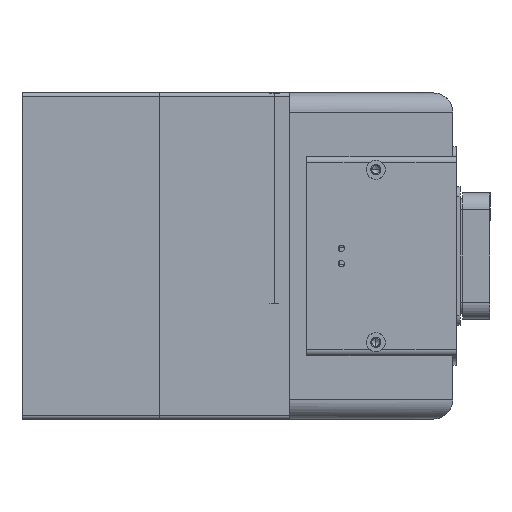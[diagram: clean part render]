
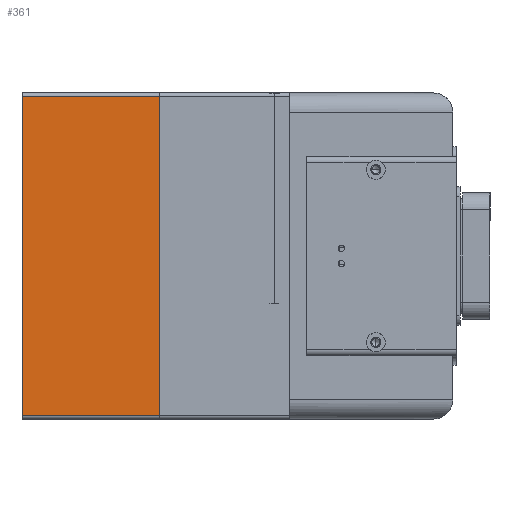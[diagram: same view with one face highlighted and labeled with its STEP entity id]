
A CAD part, left-side view. The second image highlights one B-rep face of the part: STEP entity #361.
In plain terms, the highlighted planar face has unit normal (-1, 0, 0).
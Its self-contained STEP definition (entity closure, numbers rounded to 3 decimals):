
#361 = ADVANCED_FACE ( 'NONE', ( #6363 ), #16065, .F. ) ;
#584 = CARTESIAN_POINT ( 'NONE',  ( -142.5, 71.5, -85. ) ) ;
#1531 = ORIENTED_EDGE ( 'NONE', *, *, #12725, .F. ) ;
#1661 = VECTOR ( 'NONE', #2316, 1000. ) ;
#1820 = CARTESIAN_POINT ( 'NONE',  ( -142.5, 0., -83. ) ) ;
#2316 = DIRECTION ( 'NONE',  ( 0., 0., 1. ) ) ;
#2889 = VERTEX_POINT ( 'NONE', #1820 ) ;
#3223 = VECTOR ( 'NONE', #11706, 1000. ) ;
#3345 = LINE ( 'NONE', #584, #19243 ) ;
#4045 = CARTESIAN_POINT ( 'NONE',  ( -142.5, 71.5, -83. ) ) ;
#4510 = LINE ( 'NONE', #13869, #5949 ) ;
#4699 = VERTEX_POINT ( 'NONE', #8981 ) ;
#5045 = EDGE_CURVE ( 'NONE', #2889, #4699, #12984, .T. ) ;
#5487 = ORIENTED_EDGE ( 'NONE', *, *, #5627, .F. ) ;
#5627 = EDGE_CURVE ( 'NONE', #16250, #15562, #3345, .T. ) ;
#5949 = VECTOR ( 'NONE', #15280, 1000. ) ;
#6363 = FACE_OUTER_BOUND ( 'NONE', #11652, .T. ) ;
#6444 = EDGE_CURVE ( 'NONE', #2889, #16250, #4510, .T. ) ;
#7107 = LINE ( 'NONE', #8670, #3223 ) ;
#8670 = CARTESIAN_POINT ( 'NONE',  ( -142.5, 85., 83. ) ) ;
#8981 = CARTESIAN_POINT ( 'NONE',  ( -142.5, 0., 83. ) ) ;
#9915 = CARTESIAN_POINT ( 'NONE',  ( -142.5, 0., 0. ) ) ;
#11652 = EDGE_LOOP ( 'NONE', ( #17959, #15092, #1531, #5487 ) ) ;
#11706 = DIRECTION ( 'NONE',  ( 0., -1., 0. ) ) ;
#11971 = DIRECTION ( 'NONE',  ( 0., 0., -1. ) ) ;
#12725 = EDGE_CURVE ( 'NONE', #15562, #4699, #7107, .T. ) ;
#12913 = DIRECTION ( 'NONE',  ( 0., 0., 1. ) ) ;
#12984 = LINE ( 'NONE', #9915, #1661 ) ;
#13375 = DIRECTION ( 'NONE',  ( 1., 0., 0. ) ) ;
#13869 = CARTESIAN_POINT ( 'NONE',  ( -142.5, 85., -83. ) ) ;
#15092 = ORIENTED_EDGE ( 'NONE', *, *, #5045, .T. ) ;
#15280 = DIRECTION ( 'NONE',  ( 0., 1., 0. ) ) ;
#15562 = VERTEX_POINT ( 'NONE', #18672 ) ;
#16065 = PLANE ( 'NONE',  #18932 ) ;
#16250 = VERTEX_POINT ( 'NONE', #4045 ) ;
#17733 = CARTESIAN_POINT ( 'NONE',  ( -142.5, 85., -85. ) ) ;
#17959 = ORIENTED_EDGE ( 'NONE', *, *, #6444, .F. ) ;
#18672 = CARTESIAN_POINT ( 'NONE',  ( -142.5, 71.5, 83. ) ) ;
#18932 = AXIS2_PLACEMENT_3D ( 'NONE', #17733, #13375, #11971 ) ;
#19243 = VECTOR ( 'NONE', #12913, 1000. ) ;
